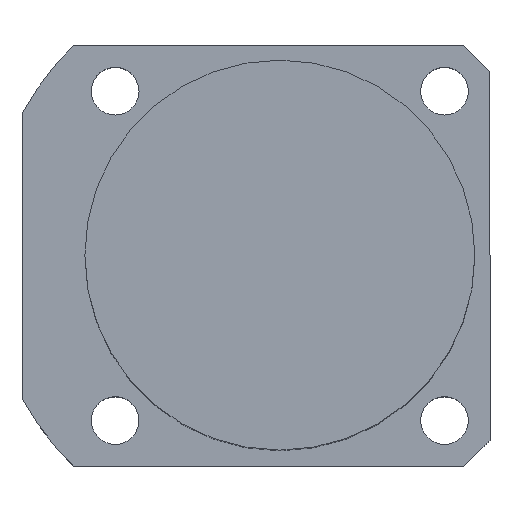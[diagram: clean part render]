
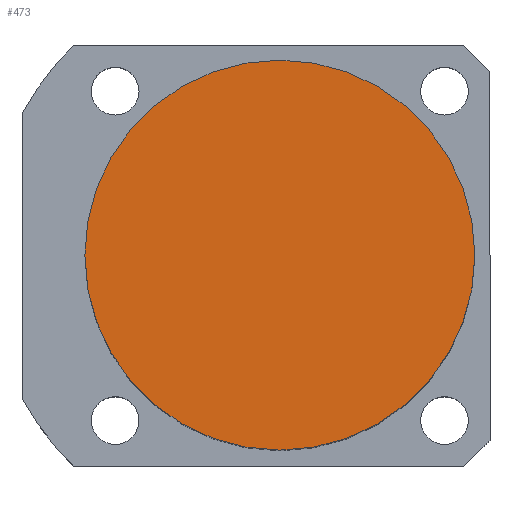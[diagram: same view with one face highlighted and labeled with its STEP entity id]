
A CAD part, top view. The second image highlights one B-rep face of the part: STEP entity #473.
In plain terms, the highlighted planar face has unit normal (0, 0, 1).
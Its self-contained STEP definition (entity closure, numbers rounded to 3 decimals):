
#139 = DIRECTION ( 'NONE',  ( 0., 0., 1. ) ) ;
#160 = AXIS2_PLACEMENT_3D ( 'NONE', #1641, #139, #685 ) ;
#177 = DIRECTION ( 'NONE',  ( 1., 0., 0. ) ) ;
#185 = DIRECTION ( 'NONE',  ( 0., 0., 1. ) ) ;
#268 = CIRCLE ( 'NONE', #160, 45. ) ;
#383 = CARTESIAN_POINT ( 'NONE',  ( 45., 0., 114.5 ) ) ;
#456 = DIRECTION ( 'NONE',  ( 1., 0., 0. ) ) ;
#468 = ORIENTED_EDGE ( 'NONE', *, *, #1107, .T. ) ;
#473 = ADVANCED_FACE ( 'NONE', ( #727 ), #1398, .T. ) ;
#641 = AXIS2_PLACEMENT_3D ( 'NONE', #868, #875, #177 ) ;
#685 = DIRECTION ( 'NONE',  ( 1., 0., 0. ) ) ;
#727 = FACE_OUTER_BOUND ( 'NONE', #755, .T. ) ;
#755 = EDGE_LOOP ( 'NONE', ( #956, #468 ) ) ;
#868 = CARTESIAN_POINT ( 'NONE',  ( 0., 0., 114.5 ) ) ;
#871 = EDGE_CURVE ( 'NONE', #1581, #934, #268, .T. ) ;
#875 = DIRECTION ( 'NONE',  ( 0., 0., 1. ) ) ;
#934 = VERTEX_POINT ( 'NONE', #383 ) ;
#956 = ORIENTED_EDGE ( 'NONE', *, *, #871, .T. ) ;
#1107 = EDGE_CURVE ( 'NONE', #934, #1581, #1152, .T. ) ;
#1137 = CARTESIAN_POINT ( 'NONE',  ( -45., 0., 114.5 ) ) ;
#1152 = CIRCLE ( 'NONE', #1429, 45. ) ;
#1398 = PLANE ( 'NONE',  #641 ) ;
#1429 = AXIS2_PLACEMENT_3D ( 'NONE', #1431, #185, #456 ) ;
#1431 = CARTESIAN_POINT ( 'NONE',  ( 0., 0., 114.5 ) ) ;
#1581 = VERTEX_POINT ( 'NONE', #1137 ) ;
#1641 = CARTESIAN_POINT ( 'NONE',  ( 0., 0., 114.5 ) ) ;
